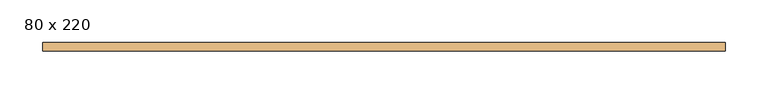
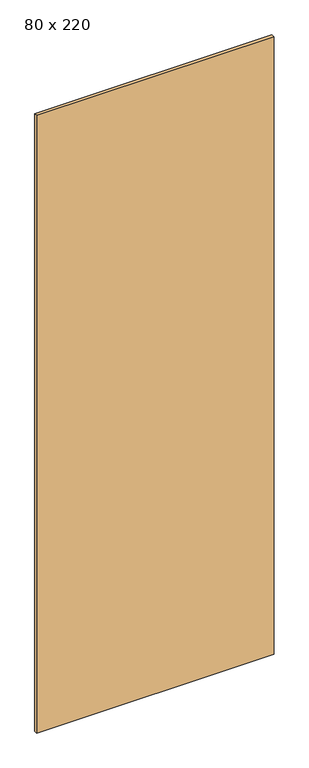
"""IFC4 building model written with IfcOpenShell, lengths in millimetres: door geometry, PORTA DE VIDRO PIVOTANTE - 1 FOLHA : 80 x 220."""

from ifc_helpers import new_model, si_unit, origin, origin_with_axes, place, context, project, spatial, polyline, outline, extrude, source, transform, mapped, element, save


def door_80_x_220_cc33ead6(model_context):
    return source(origin(), model_context, "Body", "SweptSolid", [
        extrude(outline(polyline([(460.0, 59.3424922), (-340.0, 59.3424922), (-340.0, 69.3424922), (460.0, 69.3424922), (460.0, 59.3424922)])), origin_with_axes(), (0.0, 0.0, 1.0), 2200.0),
    ])


if __name__ == "__main__":
    model = new_model("IFC4")
    model_context = context("Model", 3, world=origin())
    ifc_project = project(units=[si_unit("LENGTHUNIT", "METRE", prefix="MILLI")], contexts=[model_context])
    site = spatial("IfcSite", under=ifc_project)
    building = spatial("IfcBuilding", under=site)
    placement = place(None, origin())
    door_80_x_220_shape = door_80_x_220_cc33ead6(model_context)
    element("IfcDoor", 1, ObjectType="PORTA DE VIDRO PIVOTANTE - 1 FOLHA : 80 x 220", at=placement, inside=building, context=model_context, shape_type="MappedRepresentation", body=[
        mapped(door_80_x_220_shape, transform((0.0, 0.0, 0.0), x_axis=(1.0, 0.0, 0.0), y_axis=(0.0, 1.0, 0.0), z_axis=(0.0, 0.0, 1.0))),
    ])
    save(model, "model.ifc")
